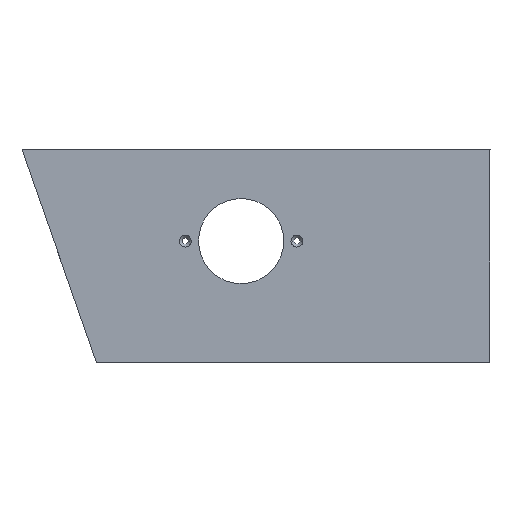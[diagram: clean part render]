
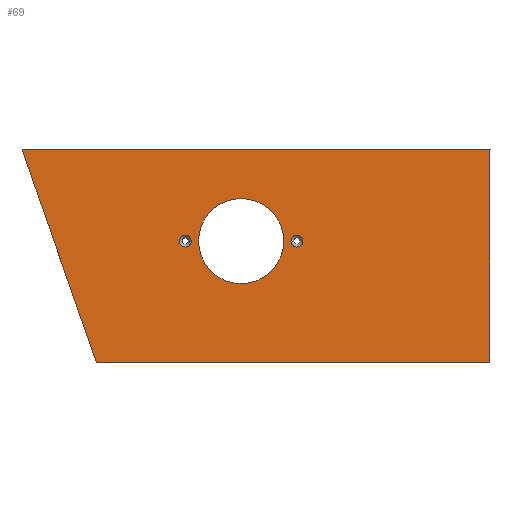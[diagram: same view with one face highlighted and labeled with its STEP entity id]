
A CAD part, top view. The second image highlights one B-rep face of the part: STEP entity #69.
In plain terms, the highlighted planar face has unit normal (0, 0, 1).
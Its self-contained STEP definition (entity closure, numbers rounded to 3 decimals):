
#69=ADVANCED_FACE('',(#109,#110,#111,#112),#113,.F.);
#109=FACE_BOUND('',#156,.T.);
#110=FACE_BOUND('',#157,.T.);
#111=FACE_BOUND('',#158,.T.);
#112=FACE_OUTER_BOUND('',#159,.T.);
#113=PLANE('',#160);
#156=EDGE_LOOP('',(#311,#312,#313));
#157=EDGE_LOOP('',(#314,#315));
#158=EDGE_LOOP('',(#316,#317));
#159=EDGE_LOOP('',(#318,#319,#320,#321));
#160=AXIS2_PLACEMENT_3D('',#322,#323,#324);
#311=ORIENTED_EDGE('',*,*,#372,.T.);
#312=ORIENTED_EDGE('',*,*,#371,.T.);
#313=ORIENTED_EDGE('',*,*,#373,.T.);
#314=ORIENTED_EDGE('',*,*,#363,.T.);
#315=ORIENTED_EDGE('',*,*,#378,.T.);
#316=ORIENTED_EDGE('',*,*,#355,.T.);
#317=ORIENTED_EDGE('',*,*,#382,.T.);
#318=ORIENTED_EDGE('',*,*,#395,.F.);
#319=ORIENTED_EDGE('',*,*,#386,.F.);
#320=ORIENTED_EDGE('',*,*,#390,.F.);
#321=ORIENTED_EDGE('',*,*,#393,.F.);
#322=CARTESIAN_POINT('',(117.263,-47.136,10.014));
#323=DIRECTION('',(0.,0.,-1.));
#324=DIRECTION('',(1.,0.,0.));
#355=EDGE_CURVE('',#420,#424,#426,.T.);
#363=EDGE_CURVE('',#434,#438,#440,.T.);
#371=EDGE_CURVE('',#449,#453,#455,.T.);
#372=EDGE_CURVE('',#456,#449,#457,.T.);
#373=EDGE_CURVE('',#453,#456,#458,.T.);
#378=EDGE_CURVE('',#438,#434,#464,.T.);
#382=EDGE_CURVE('',#424,#420,#468,.T.);
#386=EDGE_CURVE('',#473,#475,#476,.T.);
#390=EDGE_CURVE('',#480,#473,#482,.T.);
#393=EDGE_CURVE('',#485,#480,#487,.T.);
#395=EDGE_CURVE('',#475,#485,#489,.T.);
#420=VERTEX_POINT('',#1706);
#424=VERTEX_POINT('',#1711);
#426=CIRCLE('',#1714,2.8);
#434=VERTEX_POINT('',#1724);
#438=VERTEX_POINT('',#2356);
#440=CIRCLE('',#2359,2.8);
#449=VERTEX_POINT('',#3025);
#453=VERTEX_POINT('',#3030);
#455=CIRCLE('',#3033,20.);
#456=VERTEX_POINT('',#3034);
#457=CIRCLE('',#3035,20.);
#458=CIRCLE('',#3036,20.);
#464=CIRCLE('',#3045,2.8);
#468=CIRCLE('',#3052,2.8);
#473=VERTEX_POINT('',#3058);
#475=VERTEX_POINT('',#3061);
#476=LINE('',#3062,#3063);
#480=VERTEX_POINT('',#3069);
#482=LINE('',#3072,#3073);
#485=VERTEX_POINT('',#3077);
#487=LINE('',#3080,#3081);
#489=LINE('',#3084,#3085);
#1706=CARTESIAN_POINT('',(132.05,-43.,10.015));
#1711=CARTESIAN_POINT('',(126.45,-43.,10.015));
#1714=AXIS2_PLACEMENT_3D('',#3107,#3108,#3109);
#1724=CARTESIAN_POINT('',(73.95,-43.,10.009));
#2356=CARTESIAN_POINT('',(79.55,-43.,10.009));
#2359=AXIS2_PLACEMENT_3D('',#3120,#3121,#3122);
#3025=CARTESIAN_POINT('',(123.,-43.006,10.014));
#3030=CARTESIAN_POINT('',(83.,-42.994,10.01));
#3033=AXIS2_PLACEMENT_3D('',#3133,#3134,#3135);
#3034=CARTESIAN_POINT('',(103.006,-23.,10.012));
#3035=AXIS2_PLACEMENT_3D('',#3136,#3137,#3138);
#3036=AXIS2_PLACEMENT_3D('',#3139,#3140,#3141);
#3045=AXIS2_PLACEMENT_3D('',#3151,#3152,#3153);
#3052=AXIS2_PLACEMENT_3D('',#3160,#3161,#3162);
#3058=CARTESIAN_POINT('',(220.,-100.,10.025));
#3061=CARTESIAN_POINT('',(34.999,-100.,10.004));
#3062=CARTESIAN_POINT('',(220.,-100.,10.025));
#3063=VECTOR('',#3168,1.);
#3069=CARTESIAN_POINT('',(220.,0.,10.025));
#3072=CARTESIAN_POINT('',(220.,0.,10.025));
#3073=VECTOR('',#3172,1.0);
#3077=CARTESIAN_POINT('',(0.,0.,10.));
#3080=CARTESIAN_POINT('',(0.,0.,10.));
#3081=VECTOR('',#3175,1.0);
#3084=CARTESIAN_POINT('',(34.999,-100.,10.004));
#3085=VECTOR('',#3177,1.0);
#3107=CARTESIAN_POINT('',(129.25,-43.,10.015));
#3108=DIRECTION('',(0.,0.,-1.));
#3109=DIRECTION('',(1.,0.,0.));
#3120=CARTESIAN_POINT('',(76.75,-43.,10.009));
#3121=DIRECTION('',(0.,0.,-1.));
#3122=DIRECTION('',(-1.,0.,0.));
#3133=CARTESIAN_POINT('',(103.,-43.,10.012));
#3134=DIRECTION('',(0.,0.,-1.));
#3135=DIRECTION('',(0.,-1.,0.));
#3136=CARTESIAN_POINT('',(103.,-43.,10.012));
#3137=DIRECTION('',(0.,0.,-1.));
#3138=DIRECTION('',(0.,-1.,0.));
#3139=CARTESIAN_POINT('',(103.,-43.,10.012));
#3140=DIRECTION('',(0.,0.,-1.));
#3141=DIRECTION('',(0.,-1.,0.));
#3151=CARTESIAN_POINT('',(76.75,-43.,10.009));
#3152=DIRECTION('',(0.,0.,-1.));
#3153=DIRECTION('',(-1.,0.,0.));
#3160=CARTESIAN_POINT('',(129.25,-43.,10.015));
#3161=DIRECTION('',(0.,0.,-1.));
#3162=DIRECTION('',(1.,0.,0.));
#3168=DIRECTION('',(-1.,0.,0.));
#3172=DIRECTION('',(0.,-1.,0.));
#3175=DIRECTION('',(1.,0.,0.));
#3177=DIRECTION('',(-0.33,0.944,0.));
